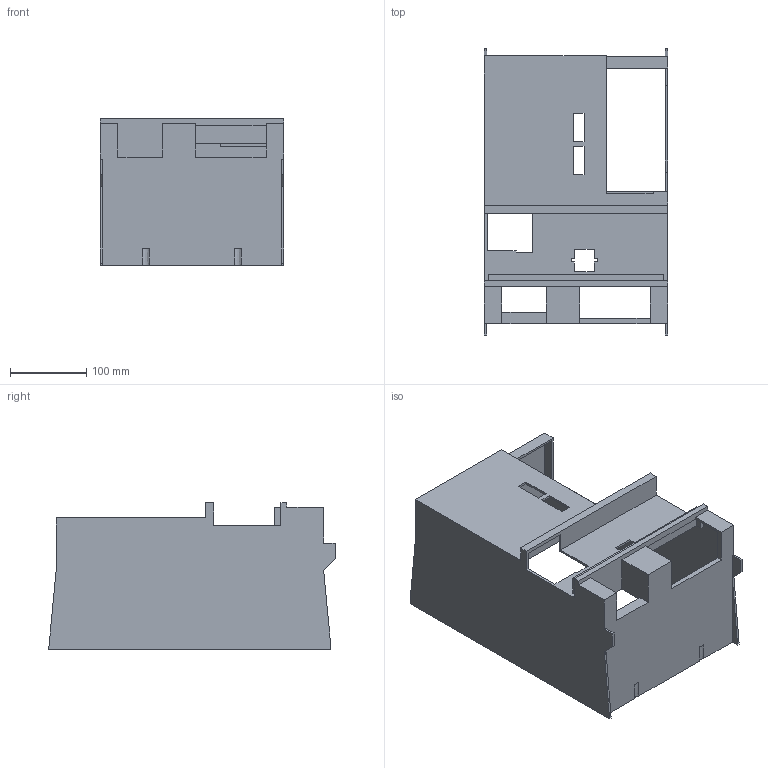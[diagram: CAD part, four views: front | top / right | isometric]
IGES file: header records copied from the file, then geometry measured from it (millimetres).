
Start section:  PTC IGES file: j3-30-37k-case1.igs
Global section: file name: j3-30-37k-case1.igs; native system: Pro/ENGINEER by Parametric Technology Corporation; preprocessor: 2006420; author: JE18792; organization: Unknown; date: 20101129.152800; units: millimetre
Bounding box: 239.8 x 374.5 x 192 mm (x, y, z)
Volume: 817070.3 mm3; surface area: 554514.9 mm2
Topology: 1 solids, 1 shells, 123 faces, 377 edges, 250 vertices
Faces by surface type: bspline 123
